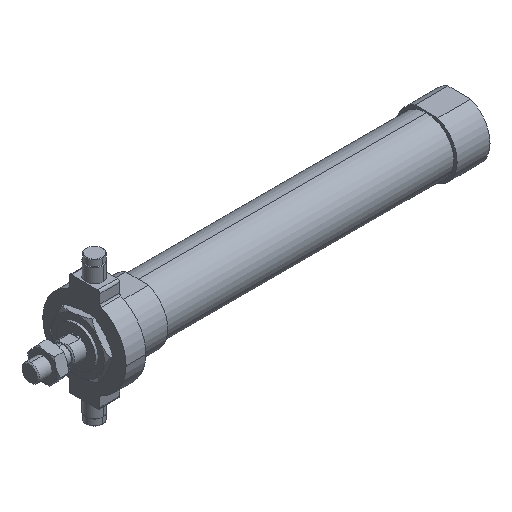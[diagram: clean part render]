
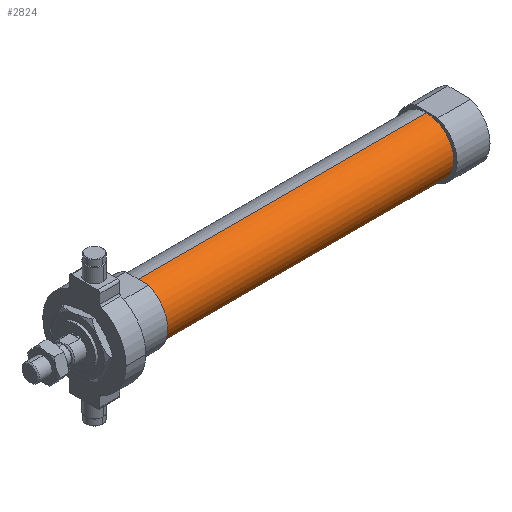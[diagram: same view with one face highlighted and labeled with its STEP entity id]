
A CAD part, isometric view. The second image highlights one B-rep face of the part: STEP entity #2824.
In plain terms, the highlighted cylindrical face has radius 12.5 mm (diameter 25 mm), a partial arc.
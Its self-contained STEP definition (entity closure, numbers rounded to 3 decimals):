
#282 = DIRECTION ( 'NONE',  ( -1., 0., 0. ) ) ;
#362 = AXIS2_PLACEMENT_3D ( 'NONE', #909, #3525, #3881 ) ;
#364 = DIRECTION ( 'NONE',  ( -1., 0., 0. ) ) ;
#380 = FACE_OUTER_BOUND ( 'NONE', #2833, .T. ) ;
#430 = AXIS2_PLACEMENT_3D ( 'NONE', #3628, #3965, #2329 ) ;
#478 = ORIENTED_EDGE ( 'NONE', *, *, #1911, .F. ) ;
#545 = CARTESIAN_POINT ( 'NONE',  ( 49., 0., -12.5 ) ) ;
#595 = VERTEX_POINT ( 'NONE', #545 ) ;
#861 = ORIENTED_EDGE ( 'NONE', *, *, #1928, .T. ) ;
#865 = VECTOR ( 'NONE', #282, 1000. ) ;
#909 = CARTESIAN_POINT ( 'NONE',  ( 49., 0., 0. ) ) ;
#918 = LINE ( 'NONE', #4257, #865 ) ;
#1130 = CARTESIAN_POINT ( 'NONE',  ( 181., 0., -12.5 ) ) ;
#1220 = CIRCLE ( 'NONE', #1304, 12.5 ) ;
#1304 = AXIS2_PLACEMENT_3D ( 'NONE', #3206, #2485, #3195 ) ;
#1332 = CIRCLE ( 'NONE', #362, 12.5 ) ;
#1784 = ORIENTED_EDGE ( 'NONE', *, *, #2917, .T. ) ;
#1911 = EDGE_CURVE ( 'NONE', #595, #2721, #1332, .T. ) ;
#1928 = EDGE_CURVE ( 'NONE', #2993, #2447, #1220, .T. ) ;
#1948 = ORIENTED_EDGE ( 'NONE', *, *, #2015, .F. ) ;
#2015 = EDGE_CURVE ( 'NONE', #2993, #595, #918, .T. ) ;
#2329 = DIRECTION ( 'NONE',  ( 0., 0., 1. ) ) ;
#2447 = VERTEX_POINT ( 'NONE', #3264 ) ;
#2485 = DIRECTION ( 'NONE',  ( -1., 0., 0. ) ) ;
#2642 = CYLINDRICAL_SURFACE ( 'NONE', #430, 12.5 ) ;
#2721 = VERTEX_POINT ( 'NONE', #2889 ) ;
#2824 = ADVANCED_FACE ( 'NONE', ( #380 ), #2642, .T. ) ;
#2833 = EDGE_LOOP ( 'NONE', ( #1948, #861, #1784, #478 ) ) ;
#2889 = CARTESIAN_POINT ( 'NONE',  ( 49., 0., 12.5 ) ) ;
#2917 = EDGE_CURVE ( 'NONE', #2447, #2721, #3792, .T. ) ;
#2993 = VERTEX_POINT ( 'NONE', #1130 ) ;
#3129 = CARTESIAN_POINT ( 'NONE',  ( -6.469, 0., 12.5 ) ) ;
#3195 = DIRECTION ( 'NONE',  ( 0., 0., 1. ) ) ;
#3206 = CARTESIAN_POINT ( 'NONE',  ( 181., 0., 0. ) ) ;
#3264 = CARTESIAN_POINT ( 'NONE',  ( 181., 0., 12.5 ) ) ;
#3525 = DIRECTION ( 'NONE',  ( -1., 0., 0. ) ) ;
#3591 = VECTOR ( 'NONE', #364, 1000. ) ;
#3628 = CARTESIAN_POINT ( 'NONE',  ( -6.469, 0., 0. ) ) ;
#3792 = LINE ( 'NONE', #3129, #3591 ) ;
#3881 = DIRECTION ( 'NONE',  ( 0., 0., 1. ) ) ;
#3965 = DIRECTION ( 'NONE',  ( -1., 0., 0. ) ) ;
#4257 = CARTESIAN_POINT ( 'NONE',  ( -6.469, 0., -12.5 ) ) ;
